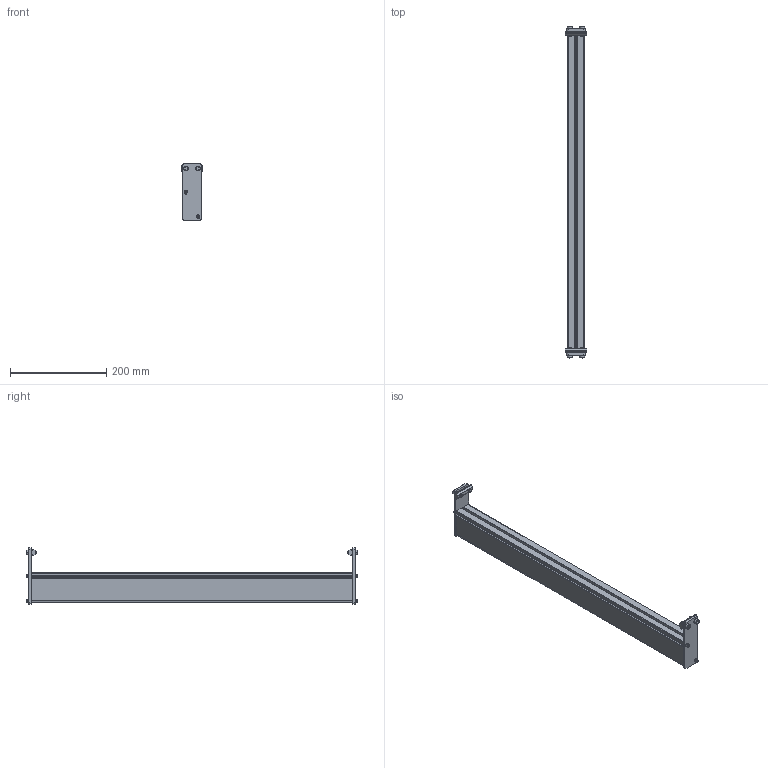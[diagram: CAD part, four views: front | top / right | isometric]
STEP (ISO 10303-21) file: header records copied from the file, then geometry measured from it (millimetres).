
FILE_DESCRIPTION((''),'2;1');
FILE_NAME('350974-26_ASM','2023-03-22T',('jenni.wallner'),(''),'PRO/ENGINEER BY PARAMETRIC TECHNOLOGY CORPORATION, 2012420','PRO/ENGINEER BY PARAMETRIC TECHNOLOGY CORPORATION, 2012420','');
FILE_SCHEMA(('CONFIG_CONTROL_DESIGN'));
Length unit declared in the file: inch
Products named in the file (6): 350979-02630; 350978; 200830M; 920616M; 920416M; 350974-26_ASM
Assembly tree (13 placements, depth 2):
  350974-26_ASM
    350979-02630
    350978  x2
    200830M  x2
    920616M  x4
    920416M  x4
Bounding box: 44.45 x 689.11 x 116.98 mm (x, y, z)
Volume: 577151.5 mm3; surface area: 368093.1 mm2
Topology: 13 solids, 17 shells, 342 faces, 868 edges, 568 vertices
Faces by surface type: plane 168, cylinder 142, cone 32
Entity records: 5990 total; most frequent: DIRECTION 1076, CARTESIAN_POINT 1015, ORIENTED_EDGE 972, EDGE_CURVE 490, AXIS2_PLACEMENT_3D 385, VERTEX_POINT 324, VECTOR 306, LINE 306
